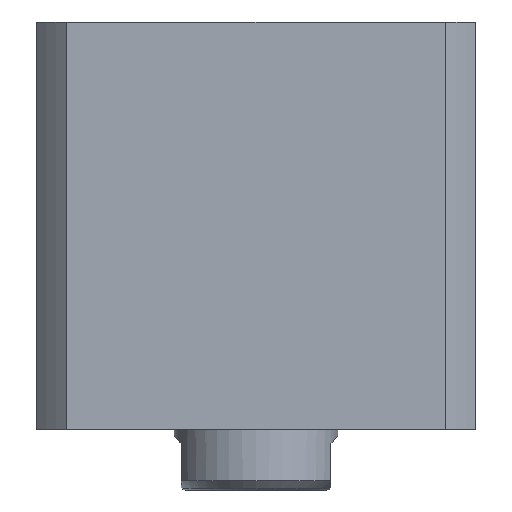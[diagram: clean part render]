
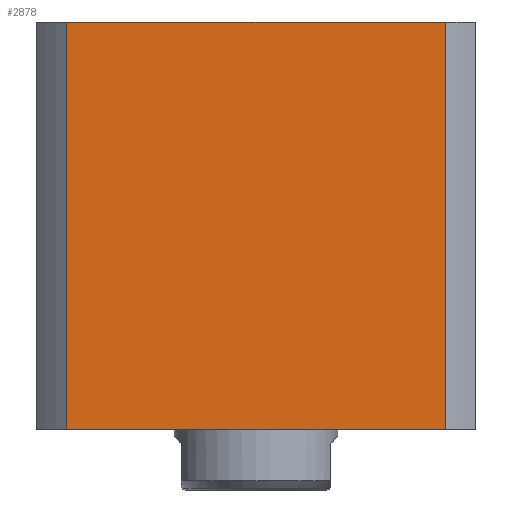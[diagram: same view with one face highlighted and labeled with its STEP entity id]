
A CAD part, front view. The second image highlights one B-rep face of the part: STEP entity #2878.
In plain terms, the highlighted planar face has unit normal (0, -1, 0) as drawn and (0, 1, 0) by its records, which use the part's own axes.
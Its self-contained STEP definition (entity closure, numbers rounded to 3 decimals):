
#104 = VECTOR ( 'NONE', #12163, 1000. ) ;
#369 = ORIENTED_EDGE ( 'NONE', *, *, #1014, .F. ) ;
#739 = VERTEX_POINT ( 'NONE', #6021 ) ;
#1014 = EDGE_CURVE ( 'NONE', #10433, #4153, #15276, .T. ) ;
#2098 = CARTESIAN_POINT ( 'NONE',  ( -47., 47., 87. ) ) ;
#2878 = ADVANCED_FACE ( 'NONE', ( #4319 ), #10191, .F. ) ;
#3604 = AXIS2_PLACEMENT_3D ( 'NONE', #2098, #14435, #6217 ) ;
#3965 = VERTEX_POINT ( 'NONE', #12862 ) ;
#4153 = VERTEX_POINT ( 'NONE', #7539 ) ;
#4319 = FACE_OUTER_BOUND ( 'NONE', #12195, .T. ) ;
#5368 = ORIENTED_EDGE ( 'NONE', *, *, #14779, .T. ) ;
#6021 = CARTESIAN_POINT ( 'NONE',  ( -40.435, 47., 0. ) ) ;
#6217 = DIRECTION ( 'NONE',  ( 0., 0., -1. ) ) ;
#7539 = CARTESIAN_POINT ( 'NONE',  ( -40.435, 47., 87. ) ) ;
#7822 = CARTESIAN_POINT ( 'NONE',  ( 40.435, 47., 87. ) ) ;
#7936 = CARTESIAN_POINT ( 'NONE',  ( -40.435, 47., -213. ) ) ;
#7941 = VECTOR ( 'NONE', #16776, 1000. ) ;
#9567 = VECTOR ( 'NONE', #14422, 1000. ) ;
#9855 = CARTESIAN_POINT ( 'NONE',  ( -47., 47., 87. ) ) ;
#10191 = PLANE ( 'NONE',  #3604 ) ;
#10433 = VERTEX_POINT ( 'NONE', #7822 ) ;
#10535 = LINE ( 'NONE', #7936, #104 ) ;
#11345 = ORIENTED_EDGE ( 'NONE', *, *, #16429, .F. ) ;
#11772 = DIRECTION ( 'NONE',  ( -1., 0., 0. ) ) ;
#12011 = EDGE_CURVE ( 'NONE', #4153, #739, #10535, .T. ) ;
#12163 = DIRECTION ( 'NONE',  ( 0., 0., -1. ) ) ;
#12195 = EDGE_LOOP ( 'NONE', ( #11345, #5368, #17430, #369 ) ) ;
#12862 = CARTESIAN_POINT ( 'NONE',  ( 40.435, 47., 0. ) ) ;
#13036 = CARTESIAN_POINT ( 'NONE',  ( 40.435, 47., -213. ) ) ;
#13164 = CARTESIAN_POINT ( 'NONE',  ( -47., 47., 0. ) ) ;
#13256 = LINE ( 'NONE', #13036, #9567 ) ;
#13543 = LINE ( 'NONE', #13164, #16798 ) ;
#14422 = DIRECTION ( 'NONE',  ( 0., 0., 1. ) ) ;
#14435 = DIRECTION ( 'NONE',  ( 0., -1., 0. ) ) ;
#14779 = EDGE_CURVE ( 'NONE', #3965, #739, #13543, .T. ) ;
#15276 = LINE ( 'NONE', #9855, #7941 ) ;
#16429 = EDGE_CURVE ( 'NONE', #3965, #10433, #13256, .T. ) ;
#16776 = DIRECTION ( 'NONE',  ( -1., 0., 0. ) ) ;
#16798 = VECTOR ( 'NONE', #11772, 1000. ) ;
#17430 = ORIENTED_EDGE ( 'NONE', *, *, #12011, .F. ) ;
